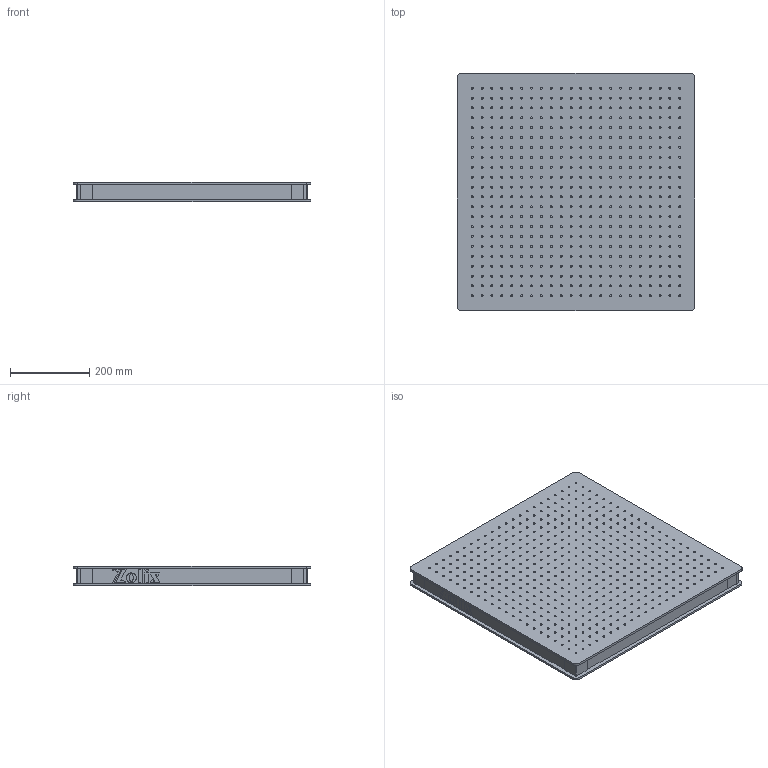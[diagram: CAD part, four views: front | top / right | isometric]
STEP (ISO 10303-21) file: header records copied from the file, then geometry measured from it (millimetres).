
FILE_DESCRIPTION (( 'STEP AP203' ), '1' );
FILE_NAME ('OTBB66-50 怢醱.STEP', '2019-05-09T08:20:31', ( 'User' ), ( 'User' ), 'SwSTEP 2.0', 'SolidWorks 2016', '' );
FILE_SCHEMA (( 'CONFIG_CONTROL_DESIGN' ));
Length unit declared in the file: millimetre
Products named in the file (1): OTBB66-50 怢醱
Bounding box: 600 x 600 x 50 mm (x, y, z)
Surface area: 1597229.6 mm2 (no closed solid volume)
Topology: 0 solids, 30 shells, 1040 faces, 3336 edges, 2328 vertices
Faces by surface type: cylinder 980, plane 60
Entity records: 39978 total; most frequent: DIRECTION 7378, CARTESIAN_POINT 6705, ORIENTED_EDGE 6312, EDGE_CURVE 3336, AXIS2_PLACEMENT_3D 3001, VERTEX_POINT 2328, EDGE_LOOP 2008, CIRCLE 1960
